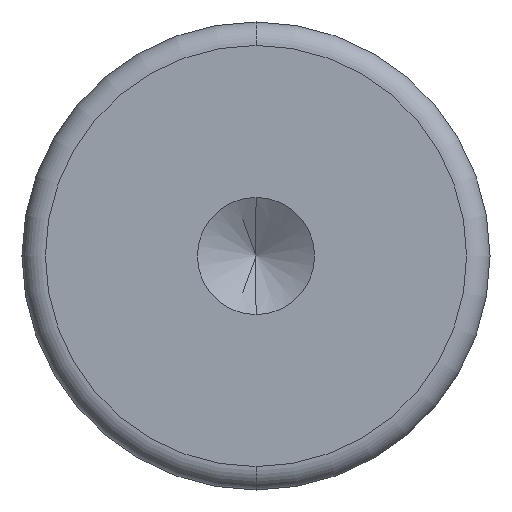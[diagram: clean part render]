
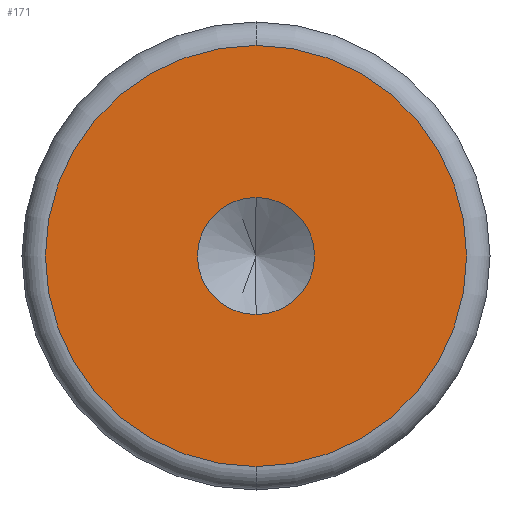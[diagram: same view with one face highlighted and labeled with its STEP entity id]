
A CAD part, front view. The second image highlights one B-rep face of the part: STEP entity #171.
In plain terms, the highlighted planar face has unit normal (0, -1, 0).
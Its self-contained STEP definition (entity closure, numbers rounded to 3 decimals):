
#2 = CARTESIAN_POINT ( 'NONE',  ( 0., 0., -9. ) ) ;
#11 = CIRCLE ( 'NONE', #43, 2.5 ) ;
#31 = CARTESIAN_POINT ( 'NONE',  ( 0., 0., 9. ) ) ;
#43 = AXIS2_PLACEMENT_3D ( 'NONE', #269, #390, #240 ) ;
#63 = CIRCLE ( 'NONE', #246, 9. ) ;
#74 = VERTEX_POINT ( 'NONE', #516 ) ;
#76 = DIRECTION ( 'NONE',  ( 0., 1., 0. ) ) ;
#80 = DIRECTION ( 'NONE',  ( 0., 0., 1. ) ) ;
#93 = EDGE_CURVE ( 'NONE', #365, #170, #63, .T. ) ;
#95 = ORIENTED_EDGE ( 'NONE', *, *, #222, .T. ) ;
#108 = EDGE_LOOP ( 'NONE', ( #95, #129 ) ) ;
#129 = ORIENTED_EDGE ( 'NONE', *, *, #93, .T. ) ;
#136 = CIRCLE ( 'NONE', #440, 9. ) ;
#146 = EDGE_CURVE ( 'NONE', #74, #284, #206, .T. ) ;
#151 = DIRECTION ( 'NONE',  ( 0., -1., 0. ) ) ;
#161 = EDGE_CURVE ( 'NONE', #284, #74, #11, .T. ) ;
#170 = VERTEX_POINT ( 'NONE', #31 ) ;
#171 = ADVANCED_FACE ( 'NONE', ( #402, #477 ), #274, .F. ) ;
#189 = AXIS2_PLACEMENT_3D ( 'NONE', #437, #76, #80 ) ;
#206 = CIRCLE ( 'NONE', #350, 2.5 ) ;
#222 = EDGE_CURVE ( 'NONE', #170, #365, #136, .T. ) ;
#238 = CARTESIAN_POINT ( 'NONE',  ( 0., 0., 0. ) ) ;
#240 = DIRECTION ( 'NONE',  ( 0., 0., -1. ) ) ;
#244 = CARTESIAN_POINT ( 'NONE',  ( 0., 0., 0. ) ) ;
#246 = AXIS2_PLACEMENT_3D ( 'NONE', #238, #359, #297 ) ;
#269 = CARTESIAN_POINT ( 'NONE',  ( 0., 0., 0. ) ) ;
#274 = PLANE ( 'NONE',  #189 ) ;
#277 = DIRECTION ( 'NONE',  ( 0., 0., 1. ) ) ;
#284 = VERTEX_POINT ( 'NONE', #491 ) ;
#297 = DIRECTION ( 'NONE',  ( 0., 0., 1. ) ) ;
#326 = ORIENTED_EDGE ( 'NONE', *, *, #146, .F. ) ;
#345 = ORIENTED_EDGE ( 'NONE', *, *, #161, .F. ) ;
#350 = AXIS2_PLACEMENT_3D ( 'NONE', #518, #151, #526 ) ;
#359 = DIRECTION ( 'NONE',  ( 0., -1., 0. ) ) ;
#361 = DIRECTION ( 'NONE',  ( 0., -1., 0. ) ) ;
#365 = VERTEX_POINT ( 'NONE', #2 ) ;
#390 = DIRECTION ( 'NONE',  ( 0., -1., 0. ) ) ;
#402 = FACE_OUTER_BOUND ( 'NONE', #108, .T. ) ;
#437 = CARTESIAN_POINT ( 'NONE',  ( 0., 0., 0. ) ) ;
#440 = AXIS2_PLACEMENT_3D ( 'NONE', #244, #361, #277 ) ;
#472 = EDGE_LOOP ( 'NONE', ( #326, #345 ) ) ;
#477 = FACE_BOUND ( 'NONE', #472, .T. ) ;
#491 = CARTESIAN_POINT ( 'NONE',  ( 0., 0., 2.5 ) ) ;
#516 = CARTESIAN_POINT ( 'NONE',  ( 0., 0., -2.5 ) ) ;
#518 = CARTESIAN_POINT ( 'NONE',  ( 0., 0., 0. ) ) ;
#526 = DIRECTION ( 'NONE',  ( 0., 0., -1. ) ) ;
